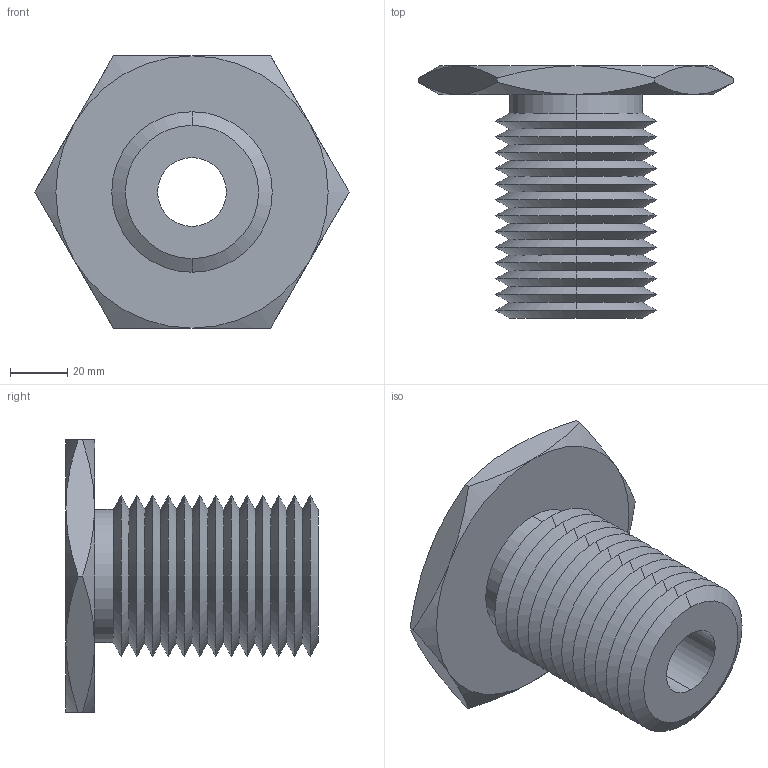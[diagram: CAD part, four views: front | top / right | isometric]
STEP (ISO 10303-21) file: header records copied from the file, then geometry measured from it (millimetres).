
FILE_DESCRIPTION (( 'STEP AP203' ), '1' );
FILE_NAME ('63302.W0056_M24x3.step', '2013-12-08T11:21:13', ( 'User' ), ( '' ), 'SwSTEP 2.0', 'SolidWorks 2009', '' );
FILE_SCHEMA (( 'CONFIG_CONTROL_DESIGN' ));
Length unit declared in the file: millimetre
Products named in the file (1): 63302.W0056_M24x3
Bounding box: 109.7 x 88 x 95 mm (x, y, z)
Volume: 194992 mm3; surface area: 47766.5 mm2
Topology: 1 solids, 1 shells, 79 faces, 162 edges, 86 vertices
Faces by surface type: cone 66, plane 9, cylinder 4
Entity records: 2271 total; most frequent: CARTESIAN_POINT 544, DIRECTION 372, ORIENTED_EDGE 324, EDGE_CURVE 162, AXIS2_PLACEMENT_3D 154, VERTEX_POINT 86, EDGE_LOOP 82, ADVANCED_FACE 79
